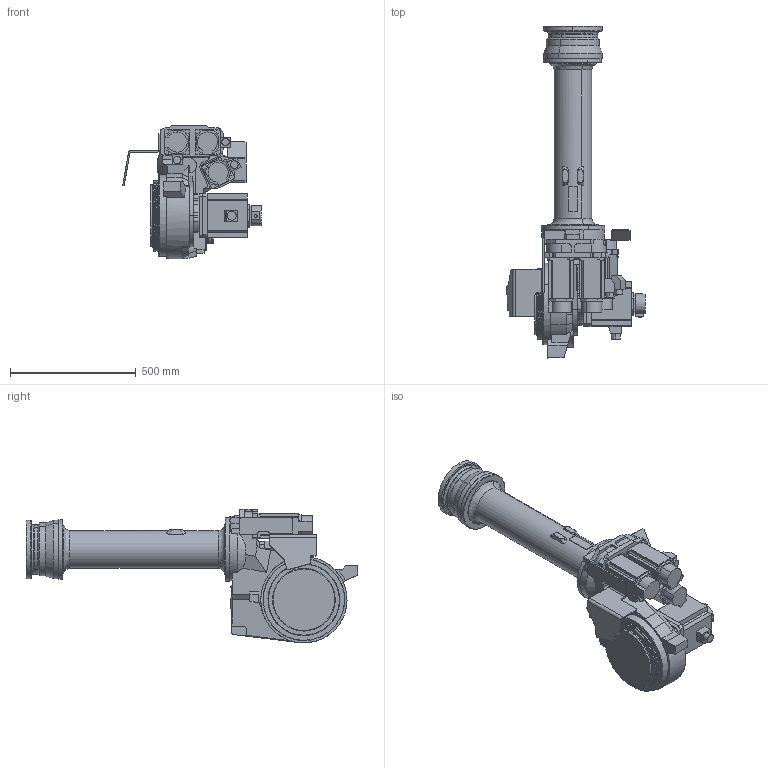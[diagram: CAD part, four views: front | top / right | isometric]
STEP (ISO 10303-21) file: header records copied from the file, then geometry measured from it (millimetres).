
FILE_DESCRIPTION(('CATIA V5 STEP Exchange'),'2;1');
FILE_NAME('Z:\ROBOT\CATIA06\products\SRA\SRA240L-01\Assy\FTP\catia\SRA240L-01_J3.stp','2023-04-11T09:15:09+00:00',('none'),('none'),'CATIA Version 5-6 Release 2016 SP3','CATIA V5 STEP AP203','none');
FILE_SCHEMA(('CONFIG_CONTROL_DESIGN'));
Length unit declared in the file: millimetre
Products named in the file (1): SRA240L-01_J3
Bounding box: 551.3 x 1320 x 531.37 mm (x, y, z)
Volume: 54996397 mm3; surface area: 1903410 mm2
Topology: 3 solids, 3 shells, 840 faces, 2302 edges, 1513 vertices
Faces by surface type: plane 537, cylinder 234, revolution 52, bspline 12, torus 4, extrusion 1
Entity records: 29567 total; most frequent: CARTESIAN_POINT 8990, ORIENTED_EDGE 4604, DIRECTION 3534, EDGE_CURVE 2302, VECTOR 1557, LINE 1556, VERTEX_POINT 1513, AXIS2_PLACEMENT_3D 1155
